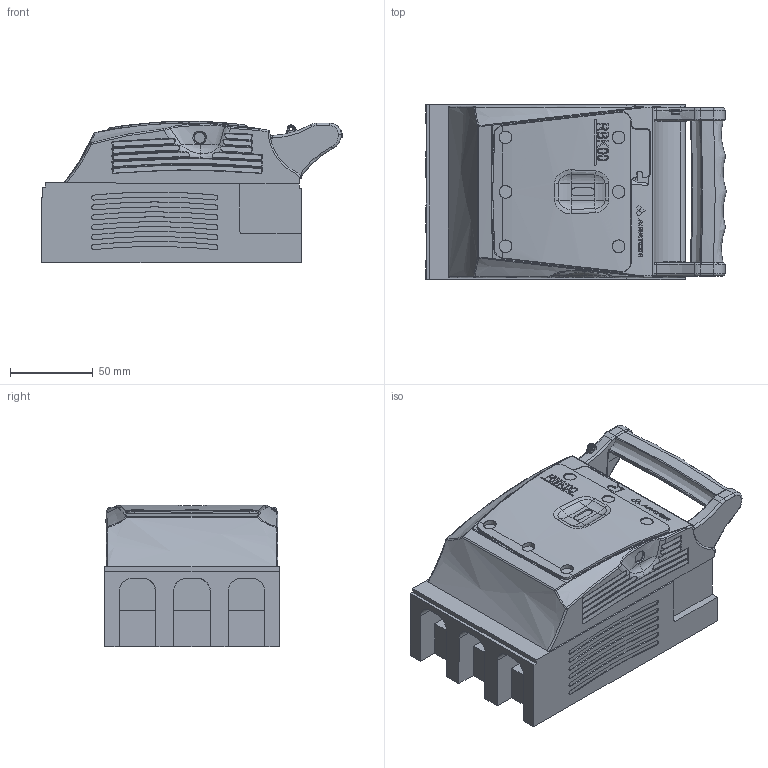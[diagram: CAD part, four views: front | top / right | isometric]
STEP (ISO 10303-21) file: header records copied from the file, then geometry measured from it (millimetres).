
FILE_DESCRIPTION(/* description */ (''),/* implementation_level */ '2;1');
FILE_NAME(/* name */ 'RBK 00-M - 63-823333-121.stp',/* time_stamp */ '2019-02-21T08:49:23+01:00',/* author */ (''),/* organization */ (''),/* preprocessor_version */ 'ST-DEVELOPER v16',/* originating_system */ 'SIEMENS PLM Software NX 10.0',/* authorisation */ '');
FILE_SCHEMA (('AUTOMOTIVE_DESIGN { 1 0 10303 214 3 1 1 1 }'));
Products named in the file (1): 710_13BC62B99l0u
Bounding box: 182.21 x 106 x 85.77 mm (x, y, z)
Volume: 1140511.9 mm3; surface area: 97960.8 mm2
Topology: 1 solids, 4 shells, 1380 faces, 3844 edges, 2513 vertices
Faces by surface type: plane 821, bspline 230, cylinder 124, cone 102, extrusion 42, torus 37, sphere 18, revolution 6
Full cylindrical faces by diameter (mm): 2.2 x1, 5.2 x4, 6.6 x1
Entity records: 66354 total; most frequent: CARTESIAN_POINT 28132, ORIENTED_EDGE 7588, DIRECTION 7032, EDGE_CURVE 3794, AXIS2_PLACEMENT_3D 2795, VERTEX_POINT 2502, EDGE_LOOP 1466, VECTOR 1436
